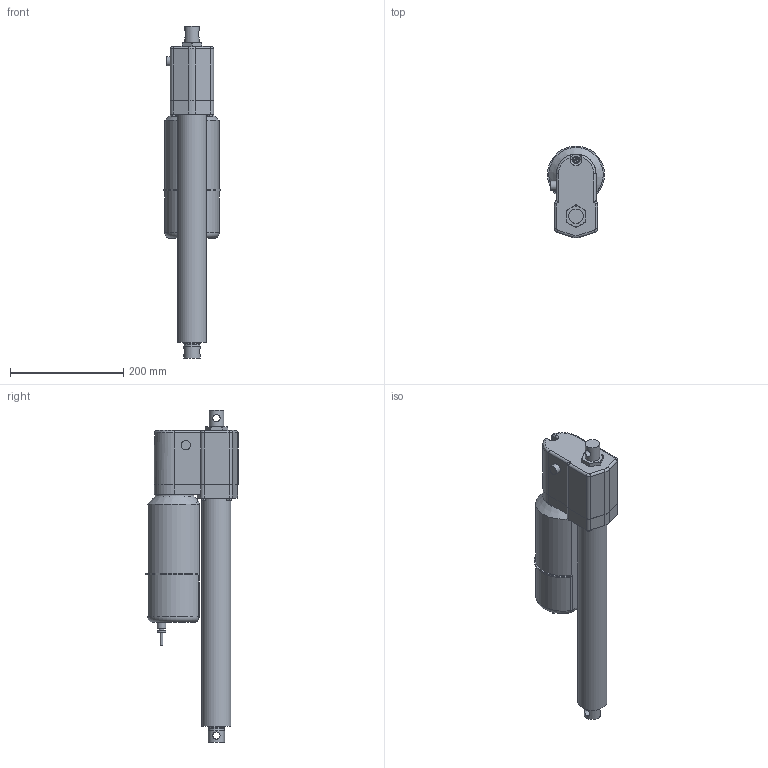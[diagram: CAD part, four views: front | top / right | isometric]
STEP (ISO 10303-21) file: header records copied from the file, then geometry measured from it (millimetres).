
FILE_DESCRIPTION (( 'STEP AP214' ), '1' );
FILE_NAME ('A42-05B5-12M0NPO-tollo.step', '2020-04-06T19:04:14', ( '' ), ( '' ), 'SwSTEP 2.0', 'SolidWorks 2010', '' );
FILE_SCHEMA (( 'AUTOMOTIVE_DESIGN' ));
Length unit declared in the file: millimetre
Products named in the file (7): Electrak-LA5-Motor-A42-05B5-12M0NPO-tollo_Electrak-LA5-Motor-A42-05B5-12M0NPO-tollo; Electrak-LA5-Rear-A42-05B5-12M0NPO-tollo_Electrak-LA5-Rear-A42-05B5-12M0NPO-tollo; Electrak-LA5-Tube-A42-05B5-12M0NPO-tollo_Electrak-LA5-Tube-A42-05B5-12M0NPO-tollo; Electrak-LA5-Rod-A42-05B5-12M0NPO-tollo_Electrak-LA5-Rod-A42-05B5-12M0NPO-tollo; Screw-MFX-H-M5-A42-05B5-12M0NPO-tollo_Screw-MFX-H-M5-A42-05B5-12M0NPO-tollo; Screw-M6S-M5-A42-05B5-12M0NPO-tollo_Screw-M6S-M5-A42-05B5-12M0NPO-tollo; A42-05B5-12M0NPO-tollo
Assembly tree (9 placements, depth 2):
  A42-05B5-12M0NPO-tollo
    Electrak-LA5-Tube-A42-05B5-12M0NPO-tollo_Electrak-LA5-Tube-A42-05B5-12M0NPO-tollo
    Electrak-LA5-Rear-A42-05B5-12M0NPO-tollo_Electrak-LA5-Rear-A42-05B5-12M0NPO-tollo
    Screw-M6S-M5-A42-05B5-12M0NPO-tollo_Screw-M6S-M5-A42-05B5-12M0NPO-tollo  x4
    Screw-MFX-H-M5-A42-05B5-12M0NPO-tollo_Screw-MFX-H-M5-A42-05B5-12M0NPO-tollo
    Electrak-LA5-Motor-A42-05B5-12M0NPO-tollo_Electrak-LA5-Motor-A42-05B5-12M0NPO-tollo
    Electrak-LA5-Rod-A42-05B5-12M0NPO-tollo_Electrak-LA5-Rod-A42-05B5-12M0NPO-tollo
Bounding box: 100.99 x 162.5 x 586.4 mm (x, y, z)
Volume: 3522802.6 mm3; surface area: 311508.7 mm2
Topology: 9 solids, 9 shells, 240 faces, 553 edges, 350 vertices
Faces by surface type: plane 96, cylinder 93, cone 31, torus 15, bspline 3, sphere 2
Full cylindrical faces by diameter (mm): 4 x1, 4.126 x5, 4.8 x2, 5 x13, 7.878 x4, 9.3 x1, 10 x1, 12.8 x2, 15 x2, 16.5 x1, 25.4 x1, 28.6 x4, 51.3 x1, 68 x1
Entity records: 5816 total; most frequent: CARTESIAN_POINT 1727, DIRECTION 814, ORIENTED_EDGE 670, AXIS2_PLACEMENT_3D 343, EDGE_CURVE 335, EDGE_LOOP 249, VERTEX_POINT 238, FACE_OUTER_BOUND 201
